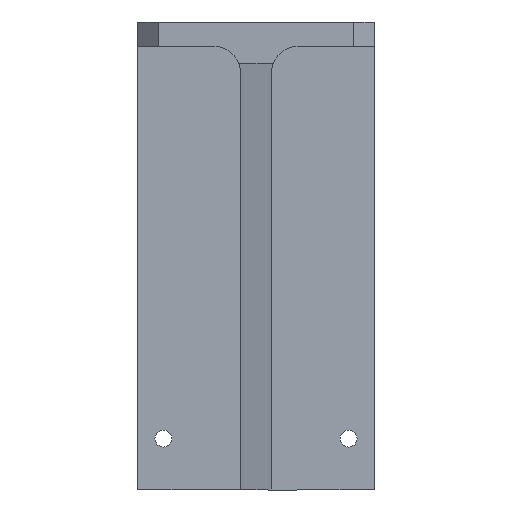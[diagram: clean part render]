
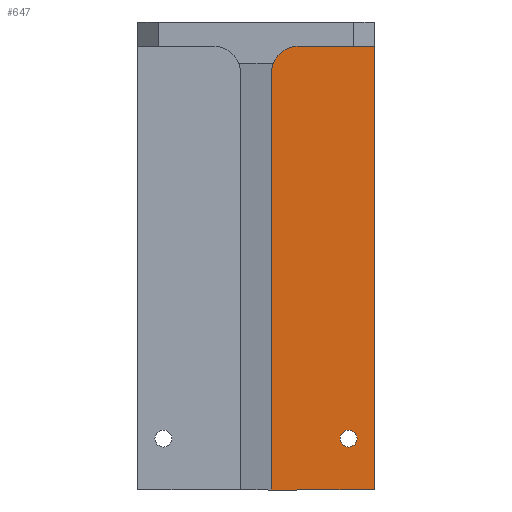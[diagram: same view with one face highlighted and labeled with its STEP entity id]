
A CAD part, left-side view. The second image highlights one B-rep face of the part: STEP entity #647.
In plain terms, the highlighted planar face has unit normal (-1, 0, 0).
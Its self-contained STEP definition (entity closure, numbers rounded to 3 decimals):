
#82 = VERTEX_POINT ( 'NONE', #591 ) ;
#166 = DIRECTION ( 'NONE',  ( 1., 0., 0. ) ) ;
#210 = DIRECTION ( 'NONE',  ( 0., 0., -1. ) ) ;
#217 = VECTOR ( 'NONE', #220, 1000. ) ;
#220 = DIRECTION ( 'NONE',  ( 0., 0., 1. ) ) ;
#221 = CARTESIAN_POINT ( 'NONE',  ( 16., 20., -129. ) ) ;
#247 = VERTEX_POINT ( 'NONE', #914 ) ;
#265 = DIRECTION ( 'NONE',  ( 0., 0., -1. ) ) ;
#273 = VERTEX_POINT ( 'NONE', #423 ) ;
#297 = DIRECTION ( 'NONE',  ( -1., 0., 0. ) ) ;
#317 = CARTESIAN_POINT ( 'NONE',  ( 16., 14.8, -9.9 ) ) ;
#366 = CARTESIAN_POINT ( 'NONE',  ( 16., 5., -82.65 ) ) ;
#423 = CARTESIAN_POINT ( 'NONE',  ( 16., 0., -91. ) ) ;
#510 = ORIENTED_EDGE ( 'NONE', *, *, #1677, .T. ) ;
#513 = VECTOR ( 'NONE', #1511, 1000. ) ;
#528 = VERTEX_POINT ( 'NONE', #676 ) ;
#531 = CARTESIAN_POINT ( 'NONE',  ( 16., 5., -81. ) ) ;
#537 = VERTEX_POINT ( 'NONE', #366 ) ;
#540 = AXIS2_PLACEMENT_3D ( 'NONE', #317, #297, #905 ) ;
#547 = CARTESIAN_POINT ( 'NONE',  ( 16., 20., -129. ) ) ;
#549 = AXIS2_PLACEMENT_3D ( 'NONE', #221, #564, #1134 ) ;
#564 = DIRECTION ( 'NONE',  ( 1., 0., 0. ) ) ;
#568 = ORIENTED_EDGE ( 'NONE', *, *, #1456, .T. ) ;
#591 = CARTESIAN_POINT ( 'NONE',  ( 16., 20., -91. ) ) ;
#620 = LINE ( 'NONE', #1597, #1431 ) ;
#647 = ADVANCED_FACE ( 'NONE', ( #997, #1336 ), #1194, .F. ) ;
#648 = CARTESIAN_POINT ( 'NONE',  ( 16., 5., -81. ) ) ;
#668 = VERTEX_POINT ( 'NONE', #1495 ) ;
#676 = CARTESIAN_POINT ( 'NONE',  ( 16., 0., -4.7 ) ) ;
#677 = CARTESIAN_POINT ( 'NONE',  ( 16., 20., -4.7 ) ) ;
#705 = EDGE_CURVE ( 'NONE', #247, #528, #806, .T. ) ;
#806 = LINE ( 'NONE', #677, #1143 ) ;
#838 = ORIENTED_EDGE ( 'NONE', *, *, #1160, .T. ) ;
#893 = EDGE_CURVE ( 'NONE', #668, #537, #1203, .T. ) ;
#905 = DIRECTION ( 'NONE',  ( 0., 0., -1. ) ) ;
#908 = LINE ( 'NONE', #547, #513 ) ;
#914 = CARTESIAN_POINT ( 'NONE',  ( 16., 14.8, -4.7 ) ) ;
#997 = FACE_BOUND ( 'NONE', #1703, .T. ) ;
#1004 = AXIS2_PLACEMENT_3D ( 'NONE', #531, #166, #265 ) ;
#1056 = ORIENTED_EDGE ( 'NONE', *, *, #1228, .T. ) ;
#1074 = DIRECTION ( 'NONE',  ( 0., -1., 0. ) ) ;
#1107 = DIRECTION ( 'NONE',  ( 1., 0., 0. ) ) ;
#1133 = ORIENTED_EDGE ( 'NONE', *, *, #1481, .F. ) ;
#1134 = DIRECTION ( 'NONE',  ( 0., 0., -1. ) ) ;
#1139 = CARTESIAN_POINT ( 'NONE',  ( 16., 20., -9.9 ) ) ;
#1143 = VECTOR ( 'NONE', #1074, 1000. ) ;
#1160 = EDGE_CURVE ( 'NONE', #537, #668, #1609, .T. ) ;
#1194 = PLANE ( 'NONE',  #549 ) ;
#1203 = CIRCLE ( 'NONE', #1004, 1.65 ) ;
#1207 = EDGE_LOOP ( 'NONE', ( #1133, #510, #568, #1546, #1056 ) ) ;
#1228 = EDGE_CURVE ( 'NONE', #247, #1447, #1612, .T. ) ;
#1294 = AXIS2_PLACEMENT_3D ( 'NONE', #648, #1107, #210 ) ;
#1309 = ORIENTED_EDGE ( 'NONE', *, *, #893, .T. ) ;
#1336 = FACE_OUTER_BOUND ( 'NONE', #1207, .T. ) ;
#1431 = VECTOR ( 'NONE', #1601, 1000. ) ;
#1447 = VERTEX_POINT ( 'NONE', #1139 ) ;
#1456 = EDGE_CURVE ( 'NONE', #273, #528, #1526, .T. ) ;
#1481 = EDGE_CURVE ( 'NONE', #82, #1447, #908, .T. ) ;
#1495 = CARTESIAN_POINT ( 'NONE',  ( 16., 5., -79.35 ) ) ;
#1511 = DIRECTION ( 'NONE',  ( 0., 0., 1. ) ) ;
#1526 = LINE ( 'NONE', #1673, #217 ) ;
#1546 = ORIENTED_EDGE ( 'NONE', *, *, #705, .F. ) ;
#1597 = CARTESIAN_POINT ( 'NONE',  ( 16., 20., -91. ) ) ;
#1601 = DIRECTION ( 'NONE',  ( 0., -1., 0. ) ) ;
#1609 = CIRCLE ( 'NONE', #1294, 1.65 ) ;
#1612 = CIRCLE ( 'NONE', #540, 5.2 ) ;
#1673 = CARTESIAN_POINT ( 'NONE',  ( 16., 0., -129. ) ) ;
#1677 = EDGE_CURVE ( 'NONE', #82, #273, #620, .T. ) ;
#1703 = EDGE_LOOP ( 'NONE', ( #838, #1309 ) ) ;
